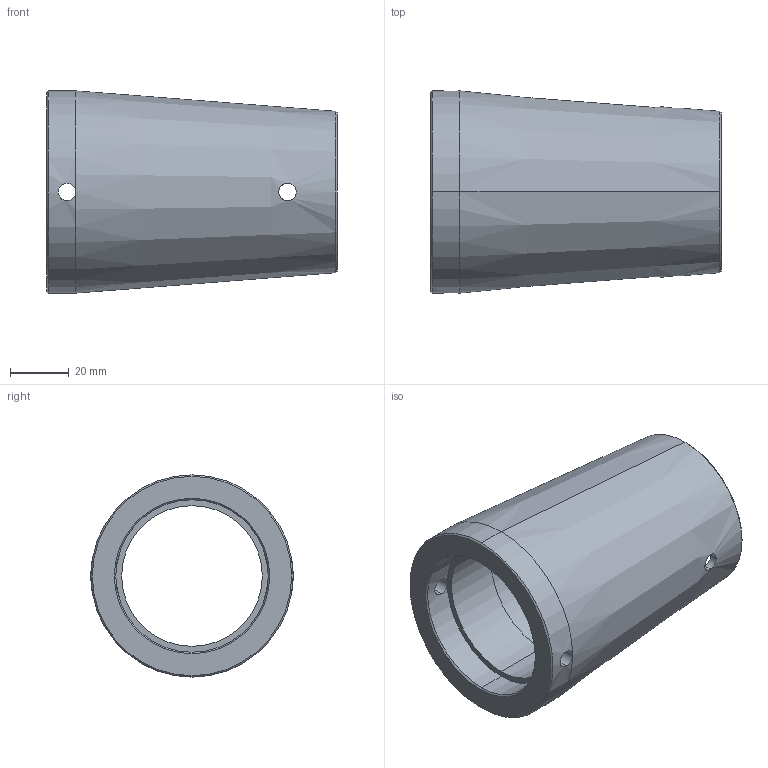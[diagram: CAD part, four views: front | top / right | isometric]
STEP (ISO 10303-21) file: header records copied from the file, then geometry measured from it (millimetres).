
FILE_DESCRIPTION (( 'STEP AP203' ), '1' );
FILE_NAME ('Abdeckhülse M48.STEP', '2018-02-20T06:52:14', ( 'install' ), ( 'Hewlett-Packard Company' ), 'SwSTEP 2.0', 'SolidWorks 2017', '' );
FILE_SCHEMA (( 'CONFIG_CONTROL_DESIGN' ));
Length unit declared in the file: millimetre
Products named in the file (1): Abdeckhülse M48
Bounding box: 99.2 x 69 x 69 mm (x, y, z)
Volume: 114383.6 mm3; surface area: 37626.6 mm2
Topology: 1 solids, 1 shells, 31 faces, 82 edges, 50 vertices
Faces by surface type: cylinder 18, cone 8, plane 5
Entity records: 1537 total; most frequent: CARTESIAN_POINT 690, ORIENTED_EDGE 164, DIRECTION 158, EDGE_CURVE 82, AXIS2_PLACEMENT_3D 66, VERTEX_POINT 50, EDGE_LOOP 38, CIRCLE 34
